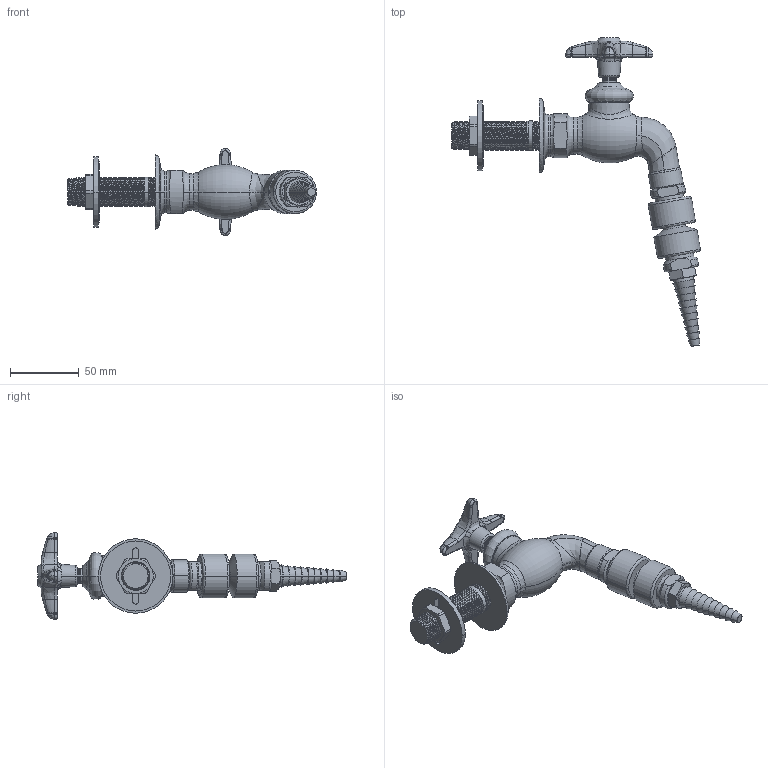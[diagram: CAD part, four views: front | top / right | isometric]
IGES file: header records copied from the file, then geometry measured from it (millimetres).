
Start section:  PTC IGES file: LWV4-C41.igs
Global section: file name: LWV4-C41.igs; native system: Creo Parametric by PTC Inc.; preprocessor: 2014500; author: usch_engrender; organization: Unknown; date: 20150915.132324; units: inch
Bounding box: 180.45 x 223.95 x 63.41 mm (x, y, z)
Volume: 192839.2 mm3; surface area: 42906.2 mm2
Topology: 1 solids, 2 shells, 475 faces, 1140 edges, 691 vertices
Faces by surface type: bspline 257, revolution 218
